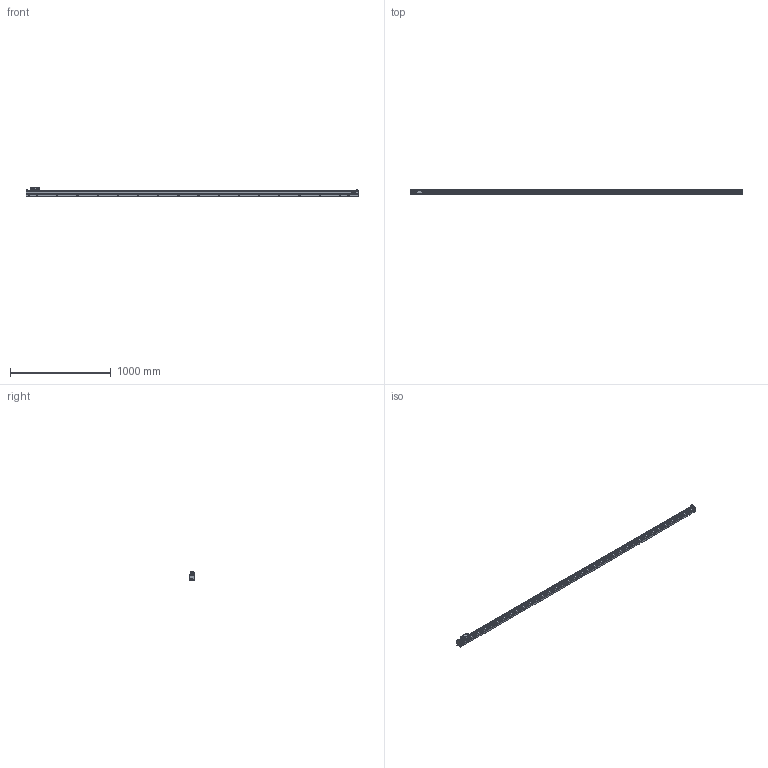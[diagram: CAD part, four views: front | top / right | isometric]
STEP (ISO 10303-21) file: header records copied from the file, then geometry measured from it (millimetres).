
FILE_DESCRIPTION(('Creo Elements/Direct Modeling STEP Export'),'2;1');
FILE_NAME('REGLA_L3_3040_M_T.stp','2020-12-16T10:24:47',(''),(''),'Creo Elements/Direct Modeling STEP processor for AP214 (Solid Model)','Creo Elements/Direct Modeling 19.0G 27-Nov-2017 (C) Parametric Technology GmbH','');
FILE_SCHEMA(('AUTOMOTIVE_DESIGN { 1 0 10303 214 1 1 1 1 }'));
Length unit declared in the file: millimetre
Products named in the file (3): CABEZA_L3_T; REGLA_L3_3040_M; REGLA_L3_3040_M_T
Assembly tree (2 placements, depth 2):
  REGLA_L3_3040_M_T
    REGLA_L3_3040_M
    CABEZA_L3_T
Bounding box: 3290 x 50 x 85 mm (x, y, z)
Volume: 8614708.4 mm3; surface area: 848517.1 mm2
Topology: 2 solids, 2 shells, 1609 faces, 4292 edges, 2759 vertices
Faces by surface type: plane 787, cylinder 497, cone 202, bspline 63, torus 52, extrusion 6, sphere 2
Entity records: 69168 total; most frequent: CARTESIAN_POINT 24296, ORIENTED_EDGE 8560, DIRECTION 7590, EDGE_CURVE 4280, VERTEX_POINT 2759, AXIS2_PLACEMENT_3D 2546, VECTOR 2498, LINE 2492
